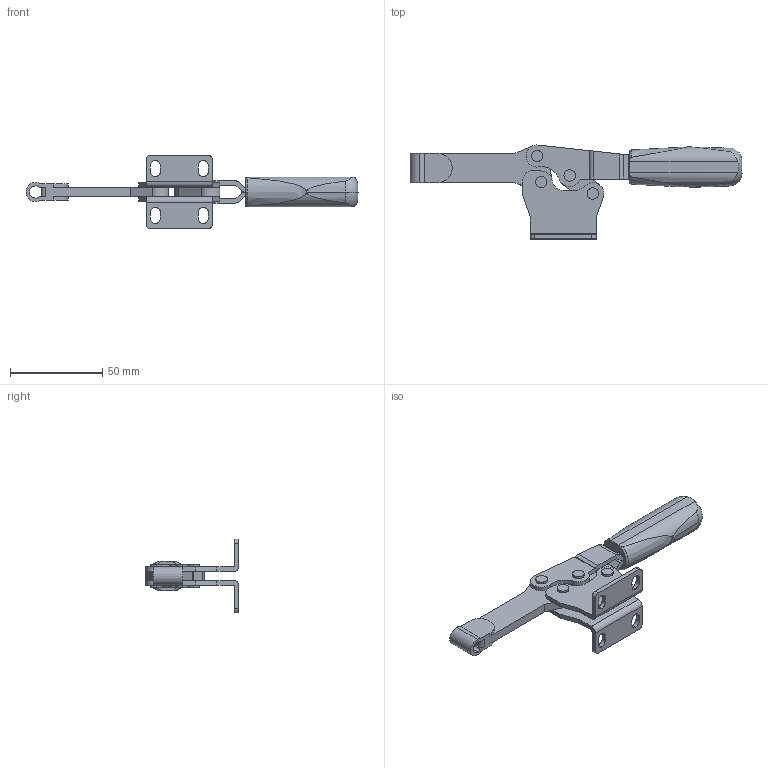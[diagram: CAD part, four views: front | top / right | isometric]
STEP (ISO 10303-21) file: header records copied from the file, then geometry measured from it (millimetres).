
FILE_DESCRIPTION (( 'STEP AP214' ), '1' );
FILE_NAME ('820-130-O.step', '2023-10-25T08:34:43', ( '' ), ( '' ), 'SwSTEP 2.0', 'SolidWorks 2022', '' );
FILE_SCHEMA (( 'AUTOMOTIVE_DESIGN' ));
Length unit declared in the file: millimetre
Products named in the file (5): WB820_Distanz^WB820-130; 820-130-O; WB820_Arm Schelle^WB820-130; WB820_Fuß^WB820-130; WB820_Griff^WB820-130
Assembly tree (4 placements, depth 2):
  820-130-O
    WB820_Fuß^WB820-130
    WB820_Griff^WB820-130
    WB820_Distanz^WB820-130
    WB820_Arm Schelle^WB820-130
Bounding box: 180.2 x 50.99 x 40 mm (x, y, z)
Volume: 38597.7 mm3; surface area: 21281.6 mm2
Topology: 4 solids, 4 shells, 196 faces, 525 edges, 348 vertices
Faces by surface type: cylinder 107, plane 78, cone 6, bspline 3, torus 2
Entity records: 8226 total; most frequent: CARTESIAN_POINT 1512, DIRECTION 1086, ORIENTED_EDGE 1050, EDGE_CURVE 525, AXIS2_PLACEMENT_3D 402, VERTEX_POINT 348, LINE 282, VECTOR 282
